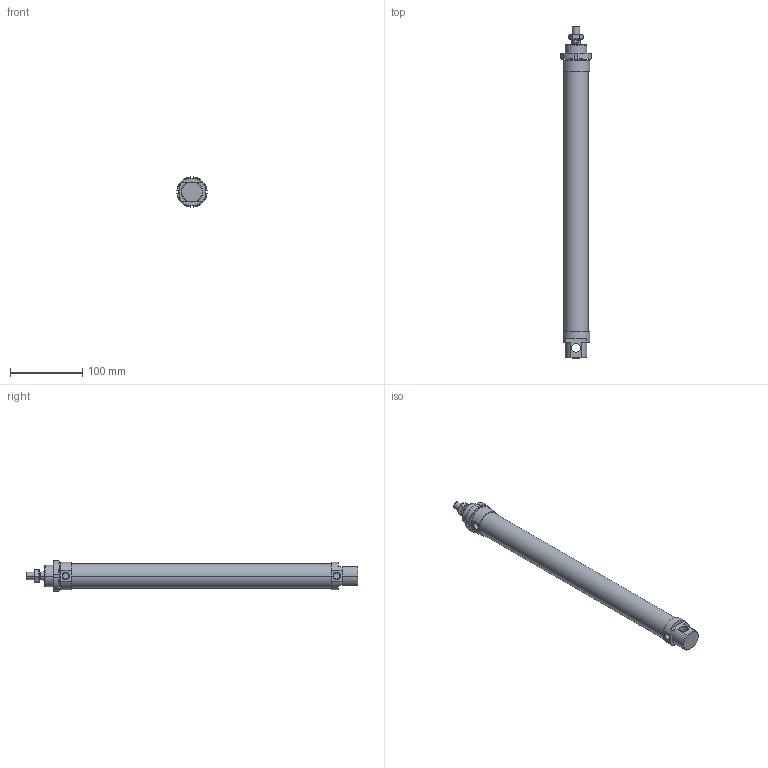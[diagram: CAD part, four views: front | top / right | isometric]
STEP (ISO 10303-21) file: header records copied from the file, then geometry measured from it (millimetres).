
FILE_DESCRIPTION((''),'2;1');
FILE_NAME('I:\DOC-EDP\Lib-3d\1200\CILINDRI\1280\1280_32_0320.stp','2003-04-07T19:05:11',('maffial1'),(''),'Autodesk Inventor (R) 6.0','Autodesk Inventor (R) 6.0','');
FILE_SCHEMA(('AUTOMOTIVE_DESIGN { 1 0 10303 214 1 1 1 1 }'));
Length unit declared in the file: millimetre
Products named in the file (5): 1280_32_0320; S1280_32_320; 1200_32_05; 1200_32_06; C1280_32_320
Assembly tree (4 placements, depth 2):
  1280_32_0320
    S1280_32_320
    1200_32_05
    1200_32_06
    C1280_32_320
Bounding box: 41.7 x 459 x 41.7 mm (x, y, z)
Volume: 385431.3 mm3; surface area: 81402.7 mm2
Topology: 4 solids, 4 shells, 122 faces, 286 edges, 180 vertices
Faces by surface type: plane 44, cone 32, cylinder 26, bspline 20
Entity records: 3831 total; most frequent: CARTESIAN_POINT 997, DIRECTION 582, ORIENTED_EDGE 572, EDGE_CURVE 286, AXIS2_PLACEMENT_3D 229, VERTEX_POINT 180, EDGE_LOOP 136, VECTOR 124
